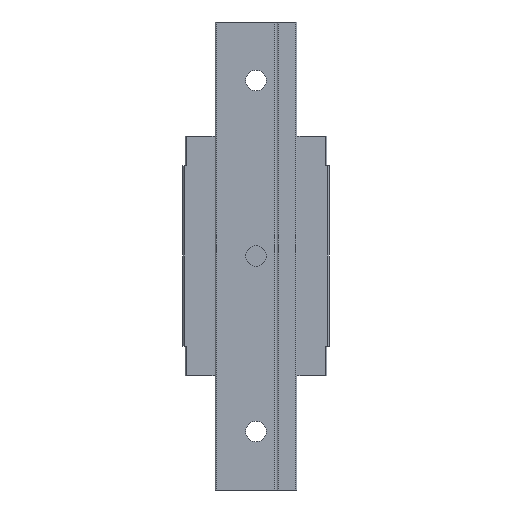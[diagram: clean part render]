
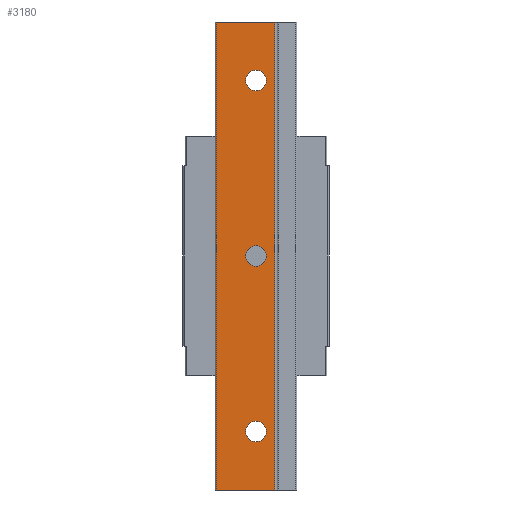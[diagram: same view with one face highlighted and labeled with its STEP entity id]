
A CAD part, front view. The second image highlights one B-rep face of the part: STEP entity #3180.
In plain terms, the highlighted planar face has unit normal (0, -1, 0).
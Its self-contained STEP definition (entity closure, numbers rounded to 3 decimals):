
#57 = VERTEX_POINT ( 'NONE', #1617 ) ;
#83 = CIRCLE ( 'NONE', #2566, 1.75 ) ;
#100 = LINE ( 'NONE', #2864, #2298 ) ;
#208 = LINE ( 'NONE', #1599, #3431 ) ;
#301 = EDGE_CURVE ( 'NONE', #641, #977, #3598, .T. ) ;
#341 = VERTEX_POINT ( 'NONE', #2840 ) ;
#368 = DIRECTION ( 'NONE',  ( 0., 1., 0. ) ) ;
#412 = PLANE ( 'NONE',  #3430 ) ;
#481 = CARTESIAN_POINT ( 'NONE',  ( 0., 0., -30. ) ) ;
#539 = AXIS2_PLACEMENT_3D ( 'NONE', #2042, #3428, #2761 ) ;
#641 = VERTEX_POINT ( 'NONE', #3853 ) ;
#691 = FACE_OUTER_BOUND ( 'NONE', #1338, .T. ) ;
#692 = EDGE_CURVE ( 'NONE', #341, #4222, #788, .T. ) ;
#712 = FACE_BOUND ( 'NONE', #3839, .T. ) ;
#727 = LINE ( 'NONE', #3512, #1828 ) ;
#788 = CIRCLE ( 'NONE', #1353, 1.75 ) ;
#905 = VERTEX_POINT ( 'NONE', #3783 ) ;
#973 = VERTEX_POINT ( 'NONE', #3219 ) ;
#977 = VERTEX_POINT ( 'NONE', #2921 ) ;
#1050 = EDGE_LOOP ( 'NONE', ( #1085, #2688 ) ) ;
#1085 = ORIENTED_EDGE ( 'NONE', *, *, #692, .F. ) ;
#1088 = ORIENTED_EDGE ( 'NONE', *, *, #1216, .F. ) ;
#1114 = ORIENTED_EDGE ( 'NONE', *, *, #301, .F. ) ;
#1175 = CIRCLE ( 'NONE', #2407, 1.75 ) ;
#1195 = CARTESIAN_POINT ( 'NONE',  ( -6.8, 0., 40. ) ) ;
#1216 = EDGE_CURVE ( 'NONE', #973, #3692, #727, .T. ) ;
#1223 = DIRECTION ( 'NONE',  ( 0., 0., -1. ) ) ;
#1257 = CIRCLE ( 'NONE', #539, 1.75 ) ;
#1265 = CARTESIAN_POINT ( 'NONE',  ( 0., 0., -28.25 ) ) ;
#1293 = EDGE_CURVE ( 'NONE', #3435, #57, #1175, .T. ) ;
#1338 = EDGE_LOOP ( 'NONE', ( #4306, #1114, #1708, #1088 ) ) ;
#1353 = AXIS2_PLACEMENT_3D ( 'NONE', #2564, #2189, #1826 ) ;
#1461 = EDGE_CURVE ( 'NONE', #3591, #905, #83, .T. ) ;
#1492 = DIRECTION ( 'NONE',  ( 0., -1., 0. ) ) ;
#1599 = CARTESIAN_POINT ( 'NONE',  ( 3.5, 0., 40. ) ) ;
#1617 = CARTESIAN_POINT ( 'NONE',  ( 0., 0., -31.75 ) ) ;
#1638 = CARTESIAN_POINT ( 'NONE',  ( 0., 0., 30. ) ) ;
#1708 = ORIENTED_EDGE ( 'NONE', *, *, #3411, .F. ) ;
#1710 = FACE_BOUND ( 'NONE', #3454, .T. ) ;
#1809 = CARTESIAN_POINT ( 'NONE',  ( 0., 0., 31.75 ) ) ;
#1819 = CARTESIAN_POINT ( 'NONE',  ( 0., 0., 30. ) ) ;
#1826 = DIRECTION ( 'NONE',  ( 0., 0., -1. ) ) ;
#1828 = VECTOR ( 'NONE', #2095, 1000. ) ;
#1995 = DIRECTION ( 'NONE',  ( 0., -1., 0. ) ) ;
#2042 = CARTESIAN_POINT ( 'NONE',  ( 0., 0., 0. ) ) ;
#2095 = DIRECTION ( 'NONE',  ( 0., 0., -1. ) ) ;
#2121 = DIRECTION ( 'NONE',  ( -1., 0., 0. ) ) ;
#2154 = EDGE_CURVE ( 'NONE', #4222, #341, #1257, .T. ) ;
#2189 = DIRECTION ( 'NONE',  ( 0., -1., 0. ) ) ;
#2298 = VECTOR ( 'NONE', #2121, 1000. ) ;
#2302 = EDGE_CURVE ( 'NONE', #973, #977, #208, .T. ) ;
#2407 = AXIS2_PLACEMENT_3D ( 'NONE', #481, #1492, #1223 ) ;
#2442 = CARTESIAN_POINT ( 'NONE',  ( -7., 0., 40. ) ) ;
#2443 = EDGE_CURVE ( 'NONE', #57, #3435, #4108, .T. ) ;
#2564 = CARTESIAN_POINT ( 'NONE',  ( 0., 0., 0. ) ) ;
#2566 = AXIS2_PLACEMENT_3D ( 'NONE', #1638, #1995, #3051 ) ;
#2619 = ORIENTED_EDGE ( 'NONE', *, *, #1461, .F. ) ;
#2632 = DIRECTION ( 'NONE',  ( 0., -1., 0. ) ) ;
#2667 = ORIENTED_EDGE ( 'NONE', *, *, #1293, .F. ) ;
#2688 = ORIENTED_EDGE ( 'NONE', *, *, #2154, .F. ) ;
#2761 = DIRECTION ( 'NONE',  ( 0., 0., -1. ) ) ;
#2763 = DIRECTION ( 'NONE',  ( 1., 0., 0. ) ) ;
#2840 = CARTESIAN_POINT ( 'NONE',  ( 0., 0., -1.75 ) ) ;
#2864 = CARTESIAN_POINT ( 'NONE',  ( 3.5, 0., -40. ) ) ;
#2916 = EDGE_CURVE ( 'NONE', #905, #3591, #4060, .T. ) ;
#2921 = CARTESIAN_POINT ( 'NONE',  ( -6.8, 0., 40. ) ) ;
#3051 = DIRECTION ( 'NONE',  ( 0., 0., -1. ) ) ;
#3067 = AXIS2_PLACEMENT_3D ( 'NONE', #4076, #2632, #3990 ) ;
#3080 = VECTOR ( 'NONE', #3621, 1000. ) ;
#3087 = CARTESIAN_POINT ( 'NONE',  ( 3.2, 0., -40. ) ) ;
#3180 = ADVANCED_FACE ( 'NONE', ( #1710, #3473, #712, #691 ), #412, .F. ) ;
#3195 = ORIENTED_EDGE ( 'NONE', *, *, #2916, .F. ) ;
#3214 = DIRECTION ( 'NONE',  ( 0., -1., 0. ) ) ;
#3219 = CARTESIAN_POINT ( 'NONE',  ( 3.2, 0., 40. ) ) ;
#3411 = EDGE_CURVE ( 'NONE', #3692, #641, #100, .T. ) ;
#3428 = DIRECTION ( 'NONE',  ( 0., -1., 0. ) ) ;
#3430 = AXIS2_PLACEMENT_3D ( 'NONE', #2442, #368, #2763 ) ;
#3431 = VECTOR ( 'NONE', #4350, 1000. ) ;
#3435 = VERTEX_POINT ( 'NONE', #1265 ) ;
#3454 = EDGE_LOOP ( 'NONE', ( #3938, #2667 ) ) ;
#3473 = FACE_BOUND ( 'NONE', #1050, .T. ) ;
#3512 = CARTESIAN_POINT ( 'NONE',  ( 3.2, 0., 40. ) ) ;
#3591 = VERTEX_POINT ( 'NONE', #1809 ) ;
#3598 = LINE ( 'NONE', #1195, #3080 ) ;
#3621 = DIRECTION ( 'NONE',  ( 0., 0., 1. ) ) ;
#3692 = VERTEX_POINT ( 'NONE', #3087 ) ;
#3771 = AXIS2_PLACEMENT_3D ( 'NONE', #1819, #3214, #4455 ) ;
#3783 = CARTESIAN_POINT ( 'NONE',  ( 0., 0., 28.25 ) ) ;
#3839 = EDGE_LOOP ( 'NONE', ( #3195, #2619 ) ) ;
#3853 = CARTESIAN_POINT ( 'NONE',  ( -6.8, 0., -40. ) ) ;
#3938 = ORIENTED_EDGE ( 'NONE', *, *, #2443, .F. ) ;
#3990 = DIRECTION ( 'NONE',  ( 0., 0., -1. ) ) ;
#4060 = CIRCLE ( 'NONE', #3771, 1.75 ) ;
#4076 = CARTESIAN_POINT ( 'NONE',  ( 0., 0., -30. ) ) ;
#4108 = CIRCLE ( 'NONE', #3067, 1.75 ) ;
#4222 = VERTEX_POINT ( 'NONE', #4469 ) ;
#4306 = ORIENTED_EDGE ( 'NONE', *, *, #2302, .T. ) ;
#4350 = DIRECTION ( 'NONE',  ( -1., 0., 0. ) ) ;
#4455 = DIRECTION ( 'NONE',  ( 0., 0., -1. ) ) ;
#4469 = CARTESIAN_POINT ( 'NONE',  ( 0., 0., 1.75 ) ) ;
